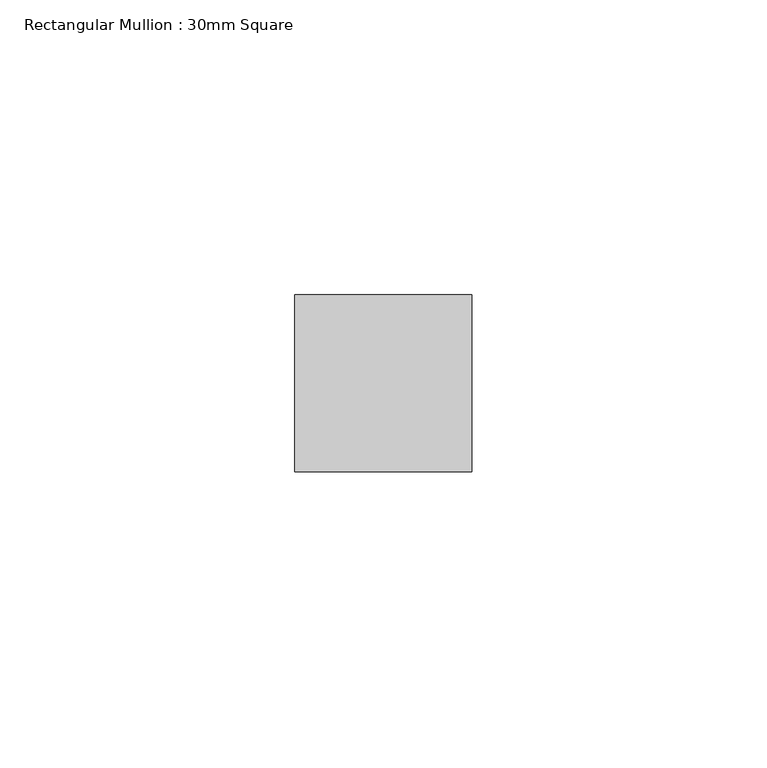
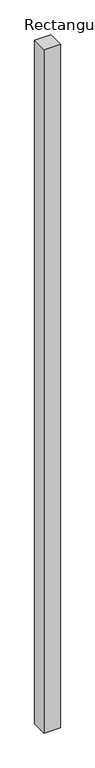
"""IFC4 building model written with IfcOpenShell, lengths in millimetres: member geometry, Rectangular Mullion : 30mm Square."""

from ifc_helpers import new_model, si_unit, frame, origin, place, context, project, spatial, polyline, outline, extrude, source, transform, mapped, element, save


def rectangular_mullion_30mm_square_b1d1f039(model_context):
    return source(origin(), model_context, "Body", "SweptSolid", [
        extrude(outline(polyline([(15.0, 15.0), (15.0, -15.0), (-15.0, -15.0), (-15.0, 15.0), (15.0, 15.0)])), frame((0.0, 0.0, -1333.8191487), z_axis=(0.0, 0.0, 1.0), x_axis=(1.0, 0.0, 0.0)), (0.0, 0.0, 1.0), 1333.8191487),
    ])


if __name__ == "__main__":
    model = new_model("IFC4")
    model_context = context("Model", 3, world=origin())
    ifc_project = project(units=[si_unit("LENGTHUNIT", "METRE", prefix="MILLI")], contexts=[model_context])
    site = spatial("IfcSite", under=ifc_project)
    building = spatial("IfcBuilding", under=site)
    placement = place(None, origin())
    rectangular_mullion_30mm_square_shape = rectangular_mullion_30mm_square_b1d1f039(model_context)
    element("IfcMember", 1, ObjectType="Rectangular Mullion : 30mm Square", at=placement, inside=building, context=model_context, shape_type="MappedRepresentation", body=[
        mapped(rectangular_mullion_30mm_square_shape, transform((0.0, 0.0, 0.0), x_axis=(1.0, 0.0, 0.0), y_axis=(0.0, 1.0, 0.0), z_axis=(0.0, 0.0, 1.0))),
    ])
    save(model, "model.ifc")
